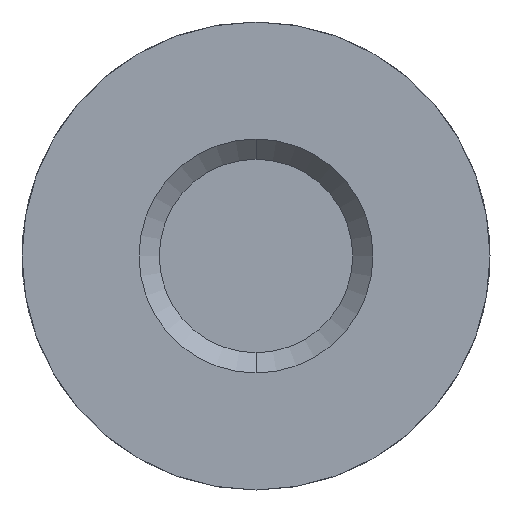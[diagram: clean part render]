
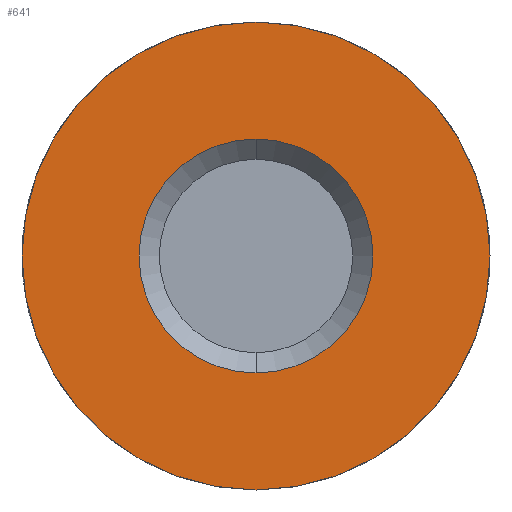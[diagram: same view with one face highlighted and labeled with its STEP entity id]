
A CAD part, front view. The second image highlights one B-rep face of the part: STEP entity #641.
In plain terms, the highlighted planar face has unit normal (0, -1, 0).
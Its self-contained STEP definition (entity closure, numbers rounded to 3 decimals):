
#5 = ORIENTED_EDGE ( 'NONE', *, *, #597, .F. ) ;
#9 = CARTESIAN_POINT ( 'NONE',  ( 0., 0., -2.5 ) ) ;
#13 = ORIENTED_EDGE ( 'NONE', *, *, #579, .T. ) ;
#32 = ORIENTED_EDGE ( 'NONE', *, *, #554, .F. ) ;
#36 = CARTESIAN_POINT ( 'NONE',  ( 0., 0., 0. ) ) ;
#53 = DIRECTION ( 'NONE',  ( 0., 1., 0. ) ) ;
#56 = DIRECTION ( 'NONE',  ( 0., 0., 1. ) ) ;
#104 = CARTESIAN_POINT ( 'NONE',  ( 0., 0., 0. ) ) ;
#110 = AXIS2_PLACEMENT_3D ( 'NONE', #408, #174, #56 ) ;
#111 = CARTESIAN_POINT ( 'NONE',  ( 0., 0., 0. ) ) ;
#126 = ORIENTED_EDGE ( 'NONE', *, *, #267, .T. ) ;
#137 = DIRECTION ( 'NONE',  ( 0., 0., -1. ) ) ;
#155 = DIRECTION ( 'NONE',  ( 0., 0., 1. ) ) ;
#166 = DIRECTION ( 'NONE',  ( 0., 0., -1. ) ) ;
#174 = DIRECTION ( 'NONE',  ( 0., 1., 0. ) ) ;
#200 = CIRCLE ( 'NONE', #110, 5. ) ;
#215 = AXIS2_PLACEMENT_3D ( 'NONE', #111, #414, #166 ) ;
#224 = CARTESIAN_POINT ( 'NONE',  ( 3.75, 0., 0. ) ) ;
#260 = EDGE_LOOP ( 'NONE', ( #32, #5 ) ) ;
#263 = VERTEX_POINT ( 'NONE', #479 ) ;
#267 = EDGE_CURVE ( 'NONE', #263, #556, #422, .T. ) ;
#297 = AXIS2_PLACEMENT_3D ( 'NONE', #104, #53, #155 ) ;
#367 = CIRCLE ( 'NONE', #297, 5. ) ;
#368 = DIRECTION ( 'NONE',  ( 0., -1., 0. ) ) ;
#386 = DIRECTION ( 'NONE',  ( 0., 1., 0. ) ) ;
#404 = VERTEX_POINT ( 'NONE', #582 ) ;
#407 = DIRECTION ( 'NONE',  ( 0., 0., -1. ) ) ;
#408 = CARTESIAN_POINT ( 'NONE',  ( 0., 0., 0. ) ) ;
#412 = VERTEX_POINT ( 'NONE', #483 ) ;
#414 = DIRECTION ( 'NONE',  ( 0., 1., 0. ) ) ;
#422 = CIRCLE ( 'NONE', #454, 2.5 ) ;
#454 = AXIS2_PLACEMENT_3D ( 'NONE', #36, #386, #137 ) ;
#469 = CIRCLE ( 'NONE', #215, 2.5 ) ;
#479 = CARTESIAN_POINT ( 'NONE',  ( 0., 0., 2.5 ) ) ;
#483 = CARTESIAN_POINT ( 'NONE',  ( 0., 0., -5. ) ) ;
#501 = EDGE_LOOP ( 'NONE', ( #13, #126 ) ) ;
#505 = PLANE ( 'NONE',  #523 ) ;
#523 = AXIS2_PLACEMENT_3D ( 'NONE', #224, #368, #407 ) ;
#554 = EDGE_CURVE ( 'NONE', #404, #412, #367, .T. ) ;
#556 = VERTEX_POINT ( 'NONE', #9 ) ;
#579 = EDGE_CURVE ( 'NONE', #556, #263, #469, .T. ) ;
#582 = CARTESIAN_POINT ( 'NONE',  ( 0., 0., 5. ) ) ;
#597 = EDGE_CURVE ( 'NONE', #412, #404, #200, .T. ) ;
#625 = FACE_OUTER_BOUND ( 'NONE', #260, .T. ) ;
#638 = FACE_BOUND ( 'NONE', #501, .T. ) ;
#641 = ADVANCED_FACE ( 'NONE', ( #638, #625 ), #505, .T. ) ;
